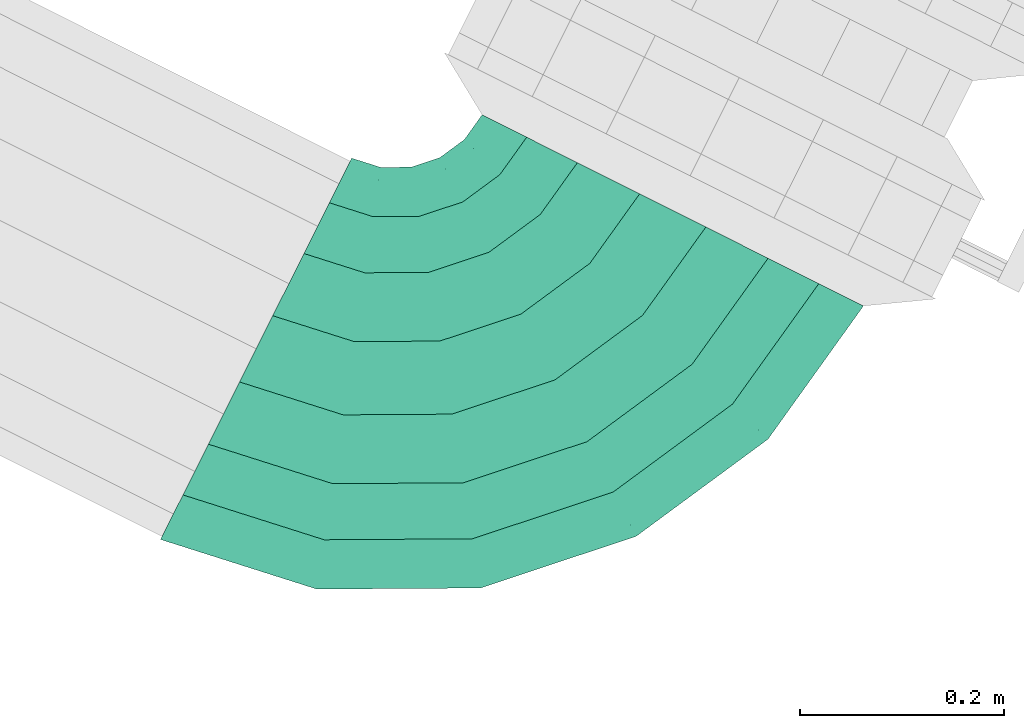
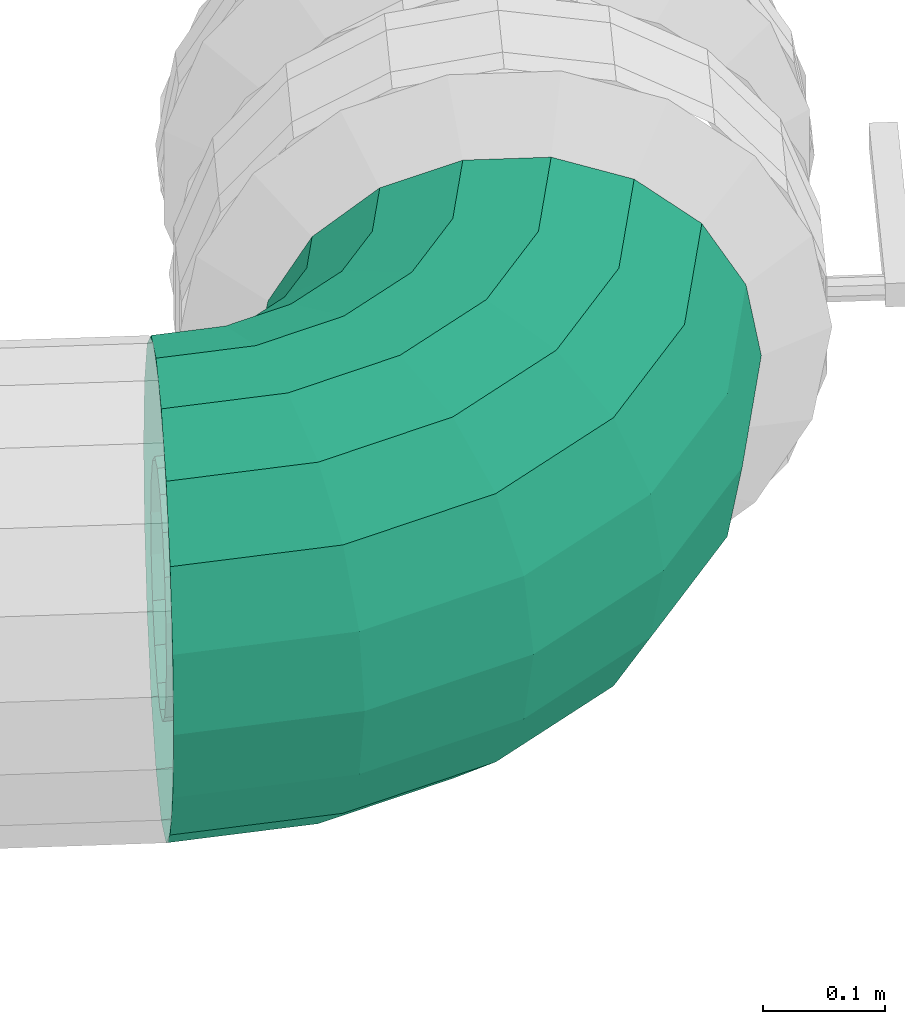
# One storey, part 56 of 152: 1 flow segment.
"""IFC2X3 building model written with IfcOpenShell, lengths in metres."""

from ifc_helpers import new_model, si_unit, derived_unit, direction, frame, origin, place, context, subcontext, project, spatial, face_set, surface_model, source, transform, mapped, material, type_object, type_shapes, element, save


model = new_model("IFC2X3")

# Units and contexts
model_context = context("Model", 3, precision=5.2338327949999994e-05, world=origin(), true_north=direction((0.0, 1.0)))
body_context = subcontext(model_context, "Body", "Model", "MODEL_VIEW")
ifc_project = project(units=[si_unit("LENGTHUNIT", "METRE"), si_unit("AREAUNIT", "SQUARE_METRE"), si_unit("VOLUMEUNIT", "CUBIC_METRE"), si_unit("MASSUNIT", "GRAM", prefix="KILO"), si_unit("PLANEANGLEUNIT", "RADIAN"), derived_unit("THERMALTRANSMITTANCEUNIT", [(si_unit("MASSUNIT", "GRAM", prefix="KILO"), 1), (si_unit("THERMODYNAMICTEMPERATUREUNIT", "KELVIN"), -1), (si_unit("TIMEUNIT", "SECOND"), -3)])], contexts=[model_context])

# Site, building, storey
site_placement = place(None, frame((0.0, 0.0, 0.0), z_axis=(0.0, 0.0, 1.0), x_axis=(0.8939966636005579, -0.4480736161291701, 0.0)))
site = spatial("IfcSite", under=ifc_project, at=site_placement, Name="Default", CompositionType="ELEMENT")
building_placement = place(site_placement, origin())
building = spatial("IfcBuilding", under=site, at=building_placement, CompositionType="ELEMENT")
storey_placement = place(building_placement, frame((0.0, 0.0, 2.7499999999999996)))
storey = spatial("IfcBuildingStorey", under=building, at=storey_placement, Name="1. Obergeschoss", CompositionType="ELEMENT", Elevation=2.7499999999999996)

# Flow segment
ifc_material = material(Name="IfcSurfaceStyle #9317")
distribution_element_type = type_object("IfcDistributionElementType", Name="Rohrbogen 347131:Rohrbogen 347131", material=ifc_material)
shared_shape = source(origin(), body_context, "Body", "SurfaceModel", [
    surface_model("IfcFaceBasedSurfaceModel", [(35.11407814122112, 8.938986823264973, 4.559549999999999), (35.107471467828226, 8.93898682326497, 4.597018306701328), (35.08750530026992, 8.812925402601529, 4.597018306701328), (35.093788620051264, 8.810883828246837, 4.559549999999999), (35.02956122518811, 8.699203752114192, 4.5970183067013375), (35.03490613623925, 8.695320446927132, 4.55955000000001), (34.9393112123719, 8.60895373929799, 4.597018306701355), (34.94319451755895, 8.603608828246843, 4.559550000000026), (34.82558956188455, 8.551009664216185, 4.597018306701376), (34.82763113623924, 8.54472634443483, 4.559550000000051), (34.69952814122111, 8.531043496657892, 4.597018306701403), (34.6995281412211, 8.524436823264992, 4.559550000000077), (35.088448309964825, 8.93898682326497, 4.629967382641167), (35.069413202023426, 8.818803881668, 4.629967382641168), (35.01417116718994, 8.710385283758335, 4.629967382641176), (34.92812968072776, 8.624343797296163, 4.629967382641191), (34.819711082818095, 8.569101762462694, 4.629967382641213), (34.699528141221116, 8.550066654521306, 4.629967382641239), (35.05930314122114, 8.938986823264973, 4.654423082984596), (35.04169449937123, 8.827810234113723, 4.654423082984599), (34.99059223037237, 8.72751638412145, 4.654423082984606), (34.91099858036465, 8.647922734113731, 4.6544230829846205), (34.81070473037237, 8.596820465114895, 4.654423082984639), (34.699528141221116, 8.579211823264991, 4.654423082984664), (35.02355129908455, 8.938986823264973, 4.667435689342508), (35.00769247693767, 8.838858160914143, 4.6674356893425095), (34.96166838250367, 8.748530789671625, 4.667435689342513), (34.88998417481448, 8.676846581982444, 4.667435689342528), (34.79965680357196, 8.630822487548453, 4.667435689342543), (34.69952814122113, 8.614963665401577, 4.6674356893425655), (34.985504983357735, 8.938986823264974, 4.667435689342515), (34.97150828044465, 8.850615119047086, 4.667435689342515), (34.93088826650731, 8.770893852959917, 4.66743568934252), (34.86762111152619, 8.7076266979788, 4.6674356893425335), (34.78789984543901, 8.667006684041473, 4.6674356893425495), (34.69952814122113, 8.6530099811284, 4.667435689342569), (34.949753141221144, 8.938986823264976, 4.6544230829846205), (34.9375062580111, 8.861663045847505, 4.6544230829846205), (34.901964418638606, 8.791908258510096, 4.6544230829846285), (34.84660670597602, 8.736550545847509, 4.654423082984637), (34.7768519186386, 8.701008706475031, 4.654423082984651), (34.699528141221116, 8.688761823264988, 4.654423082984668), (34.92060797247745, 8.938986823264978, 4.629967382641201), (34.90978755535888, 8.870669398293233, 4.629967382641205), (34.87838548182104, 8.80903935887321, 4.629967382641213), (34.8294756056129, 8.760129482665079, 4.629967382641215), (34.767845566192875, 8.728727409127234, 4.6299673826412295), (34.699528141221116, 8.717906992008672, 4.629967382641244), (34.90158481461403, 8.938986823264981, 4.597018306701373), (34.89169545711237, 8.876547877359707, 4.597018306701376), (34.86299542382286, 8.820220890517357, 4.597018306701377), (34.81829407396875, 8.775519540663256, 4.597018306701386), (34.761967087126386, 8.746819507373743, 4.597018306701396), (34.699528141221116, 8.736930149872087, 4.59701830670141), (34.894978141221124, 8.938986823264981, 4.559550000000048), (34.885412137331, 8.878589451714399, 4.5595500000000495), (34.85765051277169, 8.82410419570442, 4.559550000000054), (34.814410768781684, 8.7808644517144, 4.559550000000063), (34.7599255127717, 8.7531028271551, 4.559550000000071), (34.699528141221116, 8.743536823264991, 4.559550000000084), (34.90158481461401, 8.938986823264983, 4.52208169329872), (34.89169545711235, 8.876547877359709, 4.5220816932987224), (34.862995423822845, 8.820220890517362, 4.522081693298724), (34.81829407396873, 8.77551954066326, 4.522081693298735), (34.761967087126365, 8.746819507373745, 4.522081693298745), (34.6995281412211, 8.736930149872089, 4.522081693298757), (34.92060797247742, 8.938986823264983, 4.48913261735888), (34.909787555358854, 8.870669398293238, 4.489132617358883), (34.87838548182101, 8.809039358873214, 4.48913261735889), (34.82947560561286, 8.760129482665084, 4.489132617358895), (34.76784556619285, 8.72872740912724, 4.4891326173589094), (34.69952814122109, 8.717906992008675, 4.489132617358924), (34.949753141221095, 8.938986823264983, 4.464676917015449), (34.93750625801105, 8.86166304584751, 4.46467691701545), (34.90196441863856, 8.791908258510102, 4.464676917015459), (34.84660670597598, 8.736550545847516, 4.464676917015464), (34.776851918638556, 8.701008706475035, 4.464676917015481), (34.69952814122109, 8.688761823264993, 4.464676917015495), (34.98550498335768, 8.938986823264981, 4.451664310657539), (34.9715082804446, 8.850615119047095, 4.451664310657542), (34.93088826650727, 8.770893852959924, 4.451664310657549), (34.86762111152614, 8.707626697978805, 4.45166431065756), (34.787899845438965, 8.66700668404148, 4.451664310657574), (34.69952814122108, 8.653009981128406, 4.451664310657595), (35.02355129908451, 8.938986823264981, 4.4516643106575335), (35.00769247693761, 8.838858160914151, 4.451664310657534), (34.961668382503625, 8.748530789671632, 4.45166431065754), (34.88998417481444, 8.67684658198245, 4.451664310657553), (34.799656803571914, 8.63082248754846, 4.451664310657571), (34.69952814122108, 8.614963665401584, 4.451664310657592), (35.05930314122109, 8.938986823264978, 4.464676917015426), (35.041694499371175, 8.827810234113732, 4.464676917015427), (34.990592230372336, 8.727516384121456, 4.464676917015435), (34.91099858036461, 8.647922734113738, 4.464676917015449), (34.810704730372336, 8.596820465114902, 4.464676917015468), (34.69952814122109, 8.579211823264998, 4.464676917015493), (35.08844830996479, 8.938986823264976, 4.489132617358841), (35.069413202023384, 8.818803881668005, 4.489132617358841), (35.014171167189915, 8.710385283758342, 4.489132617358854), (34.92812968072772, 8.624343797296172, 4.4891326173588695), (34.81971108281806, 8.569101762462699, 4.489132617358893), (34.699528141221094, 8.550066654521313, 4.489132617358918), (35.1074714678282, 8.938986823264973, 4.522081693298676), (35.0875053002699, 8.81292540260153, 4.522081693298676), (35.0295612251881, 8.699203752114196, 4.522081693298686), (34.939311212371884, 8.60895373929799, 4.522081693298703), (34.825589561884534, 8.551009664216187, 4.522081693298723), (34.699528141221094, 8.531043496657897, 4.522081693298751), (35.21407814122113, 8.938986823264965, 4.55954999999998), (35.201440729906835, 8.938986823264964, 4.631220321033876), (35.17687537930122, 8.783887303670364, 4.631220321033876), (35.18889427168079, 8.779982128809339, 4.559549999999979), (35.105583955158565, 8.643970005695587, 4.631220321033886), (35.11580783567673, 8.63654192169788, 4.559549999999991), (34.9945449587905, 8.53293100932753, 4.631220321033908), (35.00197304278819, 8.52270712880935, 4.55955000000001), (34.85462766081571, 8.461639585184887, 4.631220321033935), (34.858532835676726, 8.449620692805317, 4.559550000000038), (34.69952814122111, 8.437074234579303, 4.631220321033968), (34.6995281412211, 8.424436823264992, 4.5595500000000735), (35.16505275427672, 8.938986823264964, 4.694246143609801), (35.14226835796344, 8.79513180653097, 4.694246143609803), (35.07614546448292, 8.66535832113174, 4.694246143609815), (34.973156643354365, 8.562369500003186, 4.69424614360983), (34.84338315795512, 8.49624660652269, 4.694246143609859), (34.699528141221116, 8.473462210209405, 4.694246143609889), (35.109303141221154, 8.938986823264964, 4.741025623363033), (35.089247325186, 8.812359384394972, 4.741025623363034), (35.031043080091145, 8.69812712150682, 4.7410256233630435), (34.94038784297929, 8.60747188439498, 4.741025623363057), (34.826155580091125, 8.549267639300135, 4.741025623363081), (34.69952814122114, 8.529211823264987, 4.7410256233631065), (35.04091611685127, 8.938986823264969, 4.765916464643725), (35.02420740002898, 8.833492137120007, 4.765916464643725), (34.97571681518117, 8.738324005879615, 4.765916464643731), (34.900190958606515, 8.66279814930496, 4.7659164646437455), (34.805022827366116, 8.614307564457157, 4.765916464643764), (34.69952814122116, 8.597598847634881, 4.765916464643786), (34.96814016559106, 8.938986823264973, 4.765916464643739), (34.954993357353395, 8.855981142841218, 4.765916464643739), (34.91683983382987, 8.781100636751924, 4.765916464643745), (34.85741432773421, 8.721675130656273, 4.765916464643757), (34.782533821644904, 8.683521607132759, 4.765916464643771), (34.69952814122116, 8.67037479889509, 4.765916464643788), (34.89975314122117, 8.938986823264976, 4.7410256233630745), (34.88995343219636, 8.877113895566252, 4.741025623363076), (34.86151356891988, 8.821297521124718, 4.7410256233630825), (34.81721744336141, 8.777001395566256, 4.7410256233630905), (34.761401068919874, 8.748561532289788, 4.741025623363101), (34.69952814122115, 8.738761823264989, 4.7410256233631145), (34.844003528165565, 8.938986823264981, 4.694246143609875), (34.836932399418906, 8.89434147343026, 4.694246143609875), (34.81641118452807, 8.854066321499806, 4.694246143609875), (34.78444864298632, 8.822103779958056, 4.6942461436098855), (34.74417349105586, 8.801582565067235, 4.694246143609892), (34.69952814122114, 8.794511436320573, 4.694246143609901), (34.807615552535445, 8.938986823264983, 4.6312203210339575), (34.802325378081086, 8.905585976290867, 4.63122032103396), (34.7869726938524, 8.875454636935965, 4.631220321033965), (34.76306032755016, 8.851542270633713, 4.631220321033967), (34.732928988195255, 8.836189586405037, 4.6312203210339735), (34.69952814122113, 8.830899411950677, 4.63122032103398), (34.79497814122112, 8.938986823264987, 4.55955000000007), (34.790306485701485, 8.909491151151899, 4.559550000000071), (34.77674881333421, 8.882882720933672, 4.559550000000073), (34.755632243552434, 8.8617661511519, 4.559550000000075), (34.7290238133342, 8.848208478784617, 4.559550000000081), (34.699528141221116, 8.843536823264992, 4.559550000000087), (34.80761555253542, 8.938986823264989, 4.487879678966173), (34.80232537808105, 8.90558597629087, 4.487879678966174), (34.78697269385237, 8.875454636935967, 4.487879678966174), (34.76306032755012, 8.85154227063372, 4.48787967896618), (34.73292898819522, 8.836189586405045, 4.487879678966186), (34.6995281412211, 8.830899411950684, 4.487879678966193), (34.8440035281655, 8.93898682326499, 4.424853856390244), (34.836932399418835, 8.894341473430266, 4.424853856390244), (34.81641118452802, 8.854066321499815, 4.424853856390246), (34.78444864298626, 8.822103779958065, 4.424853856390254), (34.744173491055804, 8.801582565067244, 4.424853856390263), (34.69952814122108, 8.794511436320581, 4.424853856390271), (34.89975314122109, 8.938986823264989, 4.378074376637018), (34.88995343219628, 8.877113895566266, 4.378074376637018), (34.861513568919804, 8.82129752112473, 4.378074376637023), (34.817217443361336, 8.77700139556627, 4.378074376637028), (34.761401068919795, 8.748561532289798, 4.378074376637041), (34.69952814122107, 8.738761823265, 4.378074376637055), (34.96814016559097, 8.938986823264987, 4.353183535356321), (34.954993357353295, 8.855981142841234, 4.3531835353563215), (34.916839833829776, 8.781100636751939, 4.353183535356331), (34.85741432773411, 8.72167513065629, 4.35318353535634), (34.78253382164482, 8.683521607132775, 4.353183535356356), (34.699528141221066, 8.670374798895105, 4.353183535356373), (35.04091611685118, 8.938986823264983, 4.353183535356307), (35.02420740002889, 8.83349213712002, 4.353183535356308), (34.97571681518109, 8.738324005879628, 4.353183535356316), (34.90019095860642, 8.662798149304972, 4.35318353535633), (34.805022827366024, 8.614307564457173, 4.35318353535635), (34.699528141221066, 8.597598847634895, 4.353183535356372), (35.109303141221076, 8.938986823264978, 4.378074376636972), (35.08924732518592, 8.812359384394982, 4.378074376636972), (35.03104308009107, 8.698127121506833, 4.378074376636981), (34.94038784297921, 8.607471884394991, 4.378074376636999), (34.82615558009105, 8.549267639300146, 4.378074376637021), (34.69952814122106, 8.529211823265, 4.378074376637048), (35.165052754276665, 8.938986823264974, 4.424853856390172), (35.142268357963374, 8.795131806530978, 4.424853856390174), (35.07614546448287, 8.665358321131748, 4.424853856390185), (34.97315664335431, 8.562369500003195, 4.424853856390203), (34.84338315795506, 8.496246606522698, 4.424853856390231), (34.699528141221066, 8.473462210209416, 4.424853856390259), (35.2014407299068, 8.938986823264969, 4.487879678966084), (35.17687537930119, 8.783887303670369, 4.487879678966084), (35.10558395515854, 8.643970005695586, 4.487879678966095), (34.99454495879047, 8.532931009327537, 4.4878796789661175), (34.85462766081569, 8.461639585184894, 4.487879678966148), (34.69952814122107, 8.437074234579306, 4.487879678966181)], [face_set([[[0, 1, 2, 3]], [[3, 2, 4, 5]], [[5, 4, 6, 7]], [[7, 6, 8, 9]], [[9, 8, 10, 11]], [[1, 12, 13, 2]], [[2, 13, 14, 4]], [[4, 14, 15, 6]], [[6, 15, 16, 8]], [[8, 16, 17, 10]], [[12, 18, 19, 13]], [[13, 19, 20, 14]], [[14, 20, 21, 15]], [[15, 21, 22, 16]], [[16, 22, 23, 17]], [[18, 24, 25, 19]], [[19, 25, 26, 20]], [[20, 26, 27, 21]], [[21, 27, 28, 22]], [[22, 28, 29, 23]], [[24, 30, 31, 25]], [[25, 31, 32, 26]], [[26, 32, 33, 27]], [[27, 33, 34, 28]], [[28, 34, 35, 29]], [[30, 36, 37, 31]], [[31, 37, 38, 32]], [[32, 38, 39, 33]], [[33, 39, 40, 34]], [[34, 40, 41, 35]], [[36, 42, 43, 37]], [[37, 43, 44, 38]], [[38, 44, 45, 39]], [[39, 45, 46, 40]], [[40, 46, 47, 41]], [[42, 48, 49, 43]], [[43, 49, 50, 44]], [[44, 50, 51, 45]], [[45, 51, 52, 46]], [[46, 52, 53, 47]], [[48, 54, 55, 49]], [[49, 55, 56, 50]], [[50, 56, 57, 51]], [[51, 57, 58, 52]], [[52, 58, 59, 53]], [[54, 60, 61, 55]], [[55, 61, 62, 56]], [[56, 62, 63, 57]], [[57, 63, 64, 58]], [[58, 64, 65, 59]], [[60, 66, 67, 61]], [[61, 67, 68, 62]], [[62, 68, 69, 63]], [[63, 69, 70, 64]], [[64, 70, 71, 65]], [[66, 72, 73, 67]], [[67, 73, 74, 68]], [[68, 74, 75, 69]], [[69, 75, 76, 70]], [[70, 76, 77, 71]], [[72, 78, 79, 73]], [[73, 79, 80, 74]], [[74, 80, 81, 75]], [[75, 81, 82, 76]], [[76, 82, 83, 77]], [[78, 84, 85, 79]], [[79, 85, 86, 80]], [[80, 86, 87, 81]], [[81, 87, 88, 82]], [[82, 88, 89, 83]], [[84, 90, 91, 85]], [[85, 91, 92, 86]], [[86, 92, 93, 87]], [[87, 93, 94, 88]], [[88, 94, 95, 89]], [[90, 96, 97, 91]], [[91, 97, 98, 92]], [[92, 98, 99, 93]], [[93, 99, 100, 94]], [[94, 100, 101, 95]], [[96, 102, 103, 97]], [[97, 103, 104, 98]], [[98, 104, 105, 99]], [[99, 105, 106, 100]], [[100, 106, 107, 101]], [[102, 0, 3, 103]], [[103, 3, 5, 104]], [[104, 5, 7, 105]], [[105, 7, 9, 106]], [[106, 9, 11, 107]], [[108, 109, 110, 111]], [[111, 110, 112, 113]], [[113, 112, 114, 115]], [[115, 114, 116, 117]], [[117, 116, 118, 119]], [[109, 120, 121, 110]], [[110, 121, 122, 112]], [[112, 122, 123, 114]], [[114, 123, 124, 116]], [[116, 124, 125, 118]], [[120, 126, 127, 121]], [[121, 127, 128, 122]], [[122, 128, 129, 123]], [[123, 129, 130, 124]], [[124, 130, 131, 125]], [[126, 132, 133, 127]], [[127, 133, 134, 128]], [[128, 134, 135, 129]], [[129, 135, 136, 130]], [[130, 136, 137, 131]], [[132, 138, 139, 133]], [[133, 139, 140, 134]], [[134, 140, 141, 135]], [[135, 141, 142, 136]], [[136, 142, 143, 137]], [[138, 144, 145, 139]], [[139, 145, 146, 140]], [[140, 146, 147, 141]], [[141, 147, 148, 142]], [[142, 148, 149, 143]], [[144, 150, 151, 145]], [[145, 151, 152, 146]], [[146, 152, 153, 147]], [[147, 153, 154, 148]], [[148, 154, 155, 149]], [[150, 156, 157, 151]], [[151, 157, 158, 152]], [[152, 158, 159, 153]], [[153, 159, 160, 154]], [[154, 160, 161, 155]], [[156, 162, 163, 157]], [[157, 163, 164, 158]], [[158, 164, 165, 159]], [[159, 165, 166, 160]], [[160, 166, 167, 161]], [[162, 168, 169, 163]], [[163, 169, 170, 164]], [[164, 170, 171, 165]], [[165, 171, 172, 166]], [[166, 172, 173, 167]], [[168, 174, 175, 169]], [[169, 175, 176, 170]], [[170, 176, 177, 171]], [[171, 177, 178, 172]], [[172, 178, 179, 173]], [[174, 180, 181, 175]], [[175, 181, 182, 176]], [[176, 182, 183, 177]], [[177, 183, 184, 178]], [[178, 184, 185, 179]], [[180, 186, 187, 181]], [[181, 187, 188, 182]], [[182, 188, 189, 183]], [[183, 189, 190, 184]], [[184, 190, 191, 185]], [[186, 192, 193, 187]], [[187, 193, 194, 188]], [[188, 194, 195, 189]], [[189, 195, 196, 190]], [[190, 196, 197, 191]], [[192, 198, 199, 193]], [[193, 199, 200, 194]], [[194, 200, 201, 195]], [[195, 201, 202, 196]], [[196, 202, 203, 197]], [[198, 204, 205, 199]], [[199, 205, 206, 200]], [[200, 206, 207, 201]], [[201, 207, 208, 202]], [[202, 208, 209, 203]], [[204, 210, 211, 205]], [[205, 211, 212, 206]], [[206, 212, 213, 207]], [[207, 213, 214, 208]], [[208, 214, 215, 209]], [[210, 108, 111, 211]], [[211, 111, 113, 212]], [[212, 113, 115, 213]], [[213, 115, 117, 214]], [[214, 117, 119, 215]]])]),
])
type_shapes(distribution_element_type, [shared_shape])
flow_segment_placement = place(storey_placement, frame((0.0, 0.0, -2.7499999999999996)))
element("IfcFlowSegment", 1, at=flow_segment_placement, inside=storey, type_object=distribution_element_type, material=ifc_material, Name="Rohrbogen", ObjectType="Rohrbogen", context=body_context, shape_type="MappedRepresentation", body=[
    mapped(shared_shape, transform((0.0, 0.0, 0.0), scale=1.0)),
])

save(model, "model.ifc")
